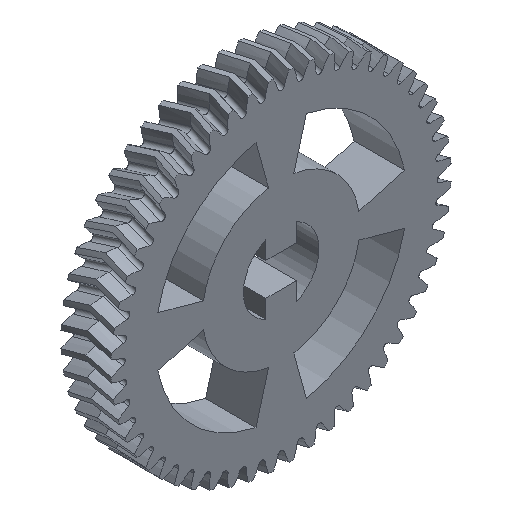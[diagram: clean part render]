
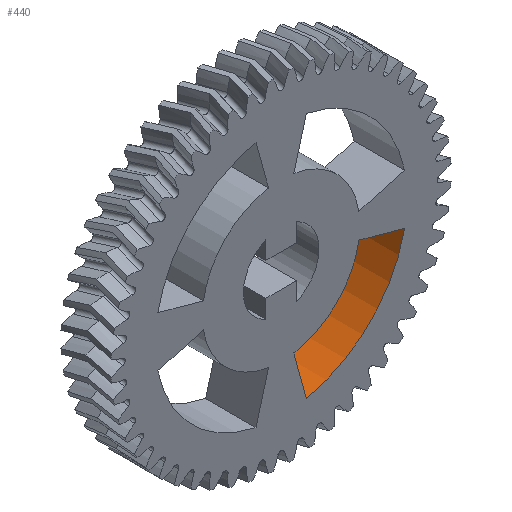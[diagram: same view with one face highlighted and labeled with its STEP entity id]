
A CAD part, isometric view. The second image highlights one B-rep face of the part: STEP entity #440.
In plain terms, the highlighted cylindrical face has radius 20 mm (diameter 40 mm), a partial arc.
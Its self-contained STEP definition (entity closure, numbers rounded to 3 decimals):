
#440 = ADVANCED_FACE ( 'NONE', ( #19650 ), #7690, .F. ) ;
#1911 = CARTESIAN_POINT ( 'NONE',  ( 0., -8., 0.002 ) ) ;
#2666 = AXIS2_PLACEMENT_3D ( 'NONE', #1911, #27476, #11923 ) ;
#2760 = EDGE_CURVE ( 'NONE', #10888, #28934, #6334, .T. ) ;
#4834 = LINE ( 'NONE', #20240, #19144 ) ;
#5696 = CARTESIAN_POINT ( 'NONE',  ( 4., 0., -19.594 ) ) ;
#6334 = CIRCLE ( 'NONE', #2666, 20. ) ;
#7690 = CYLINDRICAL_SURFACE ( 'NONE', #16419, 20. ) ;
#8136 = DIRECTION ( 'NONE',  ( 0., 1., 0. ) ) ;
#8715 = ORIENTED_EDGE ( 'NONE', *, *, #29911, .F. ) ;
#10888 = VERTEX_POINT ( 'NONE', #28076 ) ;
#11923 = DIRECTION ( 'NONE',  ( 0., 0., -1. ) ) ;
#12220 = CARTESIAN_POINT ( 'NONE',  ( 4., -10., -19.594 ) ) ;
#12863 = LINE ( 'NONE', #12220, #30336 ) ;
#13497 = ORIENTED_EDGE ( 'NONE', *, *, #2760, .T. ) ;
#14740 = EDGE_CURVE ( 'NONE', #28998, #17179, #25380, .T. ) ;
#16334 = EDGE_CURVE ( 'NONE', #28934, #28998, #4834, .T. ) ;
#16419 = AXIS2_PLACEMENT_3D ( 'NONE', #17675, #29800, #29642 ) ;
#16563 = ORIENTED_EDGE ( 'NONE', *, *, #16334, .T. ) ;
#17179 = VERTEX_POINT ( 'NONE', #5696 ) ;
#17581 = ORIENTED_EDGE ( 'NONE', *, *, #14740, .T. ) ;
#17675 = CARTESIAN_POINT ( 'NONE',  ( 0., -10., 0.002 ) ) ;
#18284 = DIRECTION ( 'NONE',  ( 0., 0., 1. ) ) ;
#19144 = VECTOR ( 'NONE', #30066, 1000. ) ;
#19650 = FACE_OUTER_BOUND ( 'NONE', #27443, .T. ) ;
#20240 = CARTESIAN_POINT ( 'NONE',  ( 19.596, -10., -3.998 ) ) ;
#22086 = CARTESIAN_POINT ( 'NONE',  ( 19.596, 0., -3.998 ) ) ;
#22371 = DIRECTION ( 'NONE',  ( 0., 1., 0. ) ) ;
#25380 = CIRCLE ( 'NONE', #29574, 20. ) ;
#27443 = EDGE_LOOP ( 'NONE', ( #13497, #16563, #17581, #8715 ) ) ;
#27476 = DIRECTION ( 'NONE',  ( 0., -1., 0. ) ) ;
#28076 = CARTESIAN_POINT ( 'NONE',  ( 4., -8., -19.594 ) ) ;
#28934 = VERTEX_POINT ( 'NONE', #29938 ) ;
#28998 = VERTEX_POINT ( 'NONE', #22086 ) ;
#29574 = AXIS2_PLACEMENT_3D ( 'NONE', #30570, #8136, #18284 ) ;
#29642 = DIRECTION ( 'NONE',  ( 0., 0., 1. ) ) ;
#29800 = DIRECTION ( 'NONE',  ( 0., 1., 0. ) ) ;
#29911 = EDGE_CURVE ( 'NONE', #10888, #17179, #12863, .T. ) ;
#29938 = CARTESIAN_POINT ( 'NONE',  ( 19.596, -8., -3.998 ) ) ;
#30066 = DIRECTION ( 'NONE',  ( 0., 1., 0. ) ) ;
#30336 = VECTOR ( 'NONE', #22371, 1000. ) ;
#30570 = CARTESIAN_POINT ( 'NONE',  ( 0., 0., 0.002 ) ) ;
